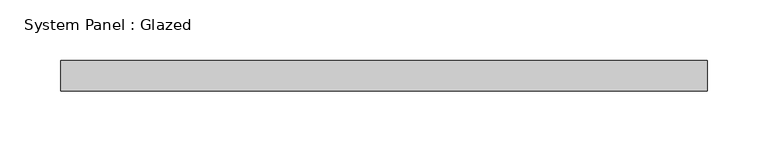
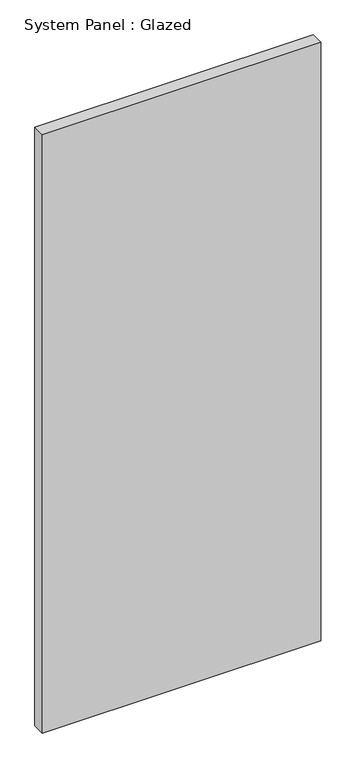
"""IFC4 building model written with IfcOpenShell, lengths in millimetres: plate geometry, System Panel : Glazed."""

from ifc_helpers import new_model, si_unit, origin, origin_with_axes, place, context, project, spatial, polyline, outline, extrude, source, transform, mapped, element, save


def system_panel_glazed_a096f5b4(model_context):
    return source(origin(), model_context, "Body", "SweptSolid", [
        extrude(outline(polyline([(266.0950031, -12.5), (-266.0950031, -12.5), (-266.0950031, 12.5), (266.0950031, 12.5), (266.0950031, -12.5)])), origin_with_axes(), (0.0, 0.0, 1.0), 1210.0),
    ])


if __name__ == "__main__":
    model = new_model("IFC4")
    model_context = context("Model", 3, world=origin())
    ifc_project = project(units=[si_unit("LENGTHUNIT", "METRE", prefix="MILLI")], contexts=[model_context])
    site = spatial("IfcSite", under=ifc_project)
    building = spatial("IfcBuilding", under=site)
    placement = place(None, origin())
    system_panel_glazed_shape = system_panel_glazed_a096f5b4(model_context)
    element("IfcPlate", 1, ObjectType="System Panel : Glazed", at=placement, inside=building, context=model_context, shape_type="MappedRepresentation", body=[
        mapped(system_panel_glazed_shape, transform((0.0, 0.0, 0.0), x_axis=(1.0, 0.0, 0.0), y_axis=(0.0, 1.0, 0.0), z_axis=(0.0, 0.0, 1.0))),
    ])
    save(model, "model.ifc")
